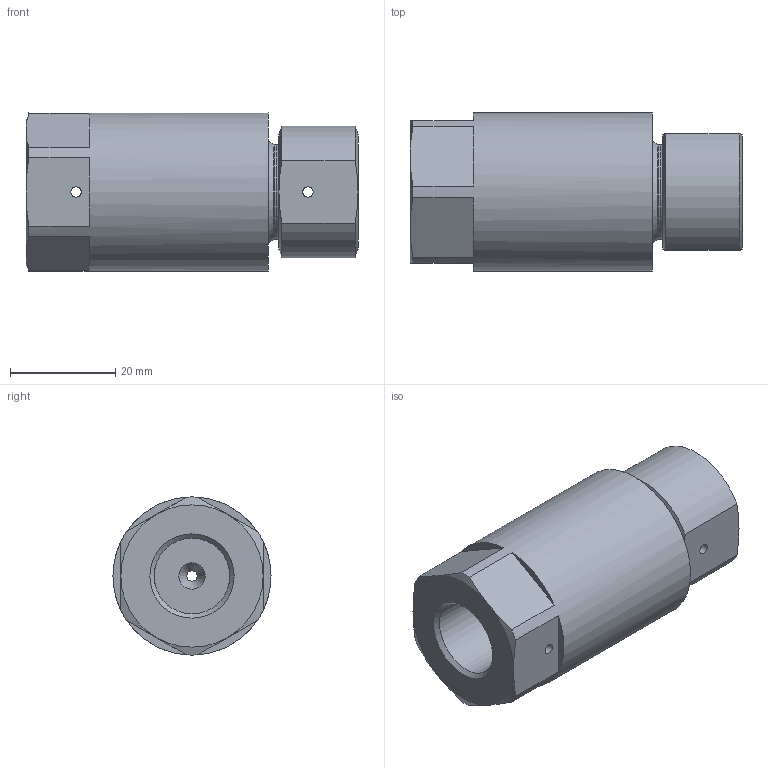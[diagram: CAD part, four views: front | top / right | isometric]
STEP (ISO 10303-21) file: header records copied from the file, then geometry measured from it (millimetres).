
FILE_DESCRIPTION(/* description */ (''),/* implementation_level */ '2;1');
FILE_NAME(/* name */ 'RV-H-2 STP.stp',/* time_stamp */ '2026-08-03T15:20:09+02:00',/* author */ ('janos'),/* organization */ (''),/* preprocessor_version */ 'ST-DEVELOPER v19.2',/* originating_system */ 'Autodesk Inventor 2024',/* authorisation */ '');
FILE_SCHEMA (('AUTOMOTIVE_DESIGN { 1 0 10303 214 3 1 1 }'));
Length unit declared in the file: millimetre
Products named in the file (1): RV.H.2.BG.1.1_Vereinfachen_2
Bounding box: 63 x 30 x 30 mm (x, y, z)
Volume: 35096.7 mm3; surface area: 8751.5 mm2
Topology: 1 solids, 1 shells, 54 faces, 129 edges, 83 vertices
Faces by surface type: plane 22, cone 16, cylinder 13, torus 3
Full cylindrical faces by diameter (mm): 2 x6, 4 x1, 14.376 x2, 18 x1, 30 x1
Entity records: 1818 total; most frequent: CARTESIAN_POINT 443, DIRECTION 273, ORIENTED_EDGE 258, EDGE_CURVE 129, AXIS2_PLACEMENT_3D 117, VERTEX_POINT 83, EDGE_LOOP 70, CIRCLE 62
